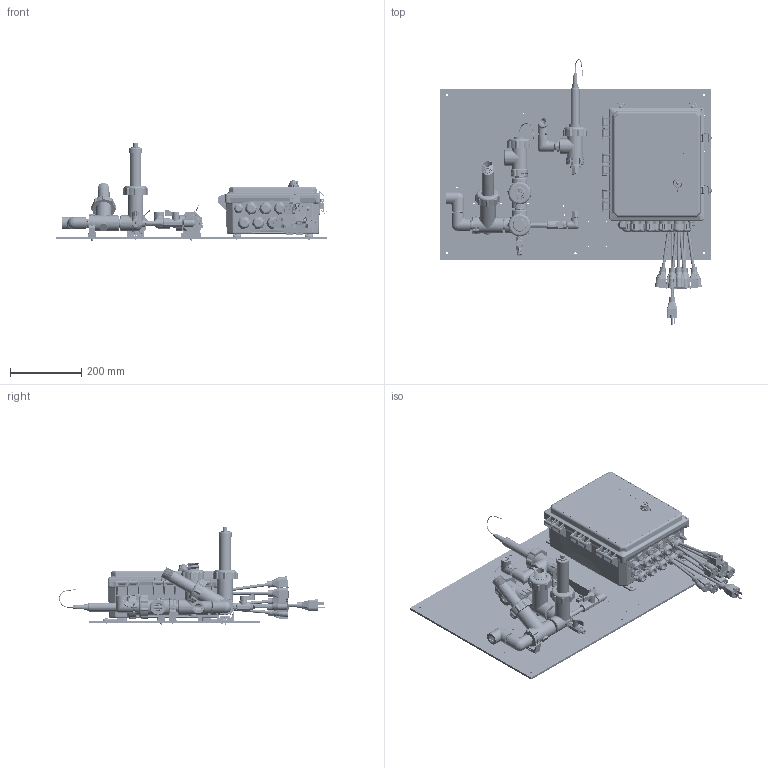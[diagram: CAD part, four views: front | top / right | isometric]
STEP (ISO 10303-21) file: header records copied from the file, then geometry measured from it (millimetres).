
FILE_DESCRIPTION (( 'STEP AP203' ), '1' );
FILE_NAME ('W900-CT-PAFKMN.STEP', '2021-06-01T19:11:59', ( '' ), ( '' ), 'SwSTEP 2.0', 'SolidWorks 2019', '' );
FILE_SCHEMA (( 'CONFIG_CONTROL_DESIGN' ));
Length unit declared in the file: inch
Products named in the file (65): W900 Shell; SHELL-103859_Cord1; SHELL-190996; SHELL-102880; 102907; SHELL-102961ws; SHELL-102961_30075T212; SHELL-103419-2; SHELL-103419-1; SHELL-191655-C; SHELL-103515; 102906; SHELL-102882; SHELL-191020-XX; SHELL-103442; 103861; SHELL-191445; 192606-PIN; W900-CT-PAFKMN Manifold; SHELL-104159; SHELL-102986; IMS0012; SHELL-102442_4880K347; IMS0025; SHELL-102423; SHELL-102381_4880K345; SHELL-102938; SHELL-102594; SHELL-191646-XX; SHELL-102879-XX_102879-01; SHELL-191652; SHELL-102784; W900-CT-PAFKMN; ISA0006; SHELL-102884; SHELL-104174_4882K41; IMS0013; SHELL-102883; SHELL-103893_91772A829; 103860_Cord1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
Assembly tree (111 placements, depth 5):
  W900-CT-PAFKMN
    SHELL-102938
    W900 Shell
      W900 Shell
      SHELL-103283-FT  x4
      IMS0035_91500A537  x4
      SHELL-103893_91772A829  x4
      ISA0006
        102903_102903
        102906
        103860_Cord1  x3
        103861
      ISA0006
        102903_102903
        102906
        103860_Cord1  x2
        103861
      ISA0006
        102907
        102903_102903
        102906
        103860_Cord1  x3
        103861
      SHELL-103859_Cord1
    SHELL-102961ws
      SHELL-102961_30075T212
      SHELL-103886_98273A320
    SHELL-102961ws
      SHELL-102961_30075T212
      SHELL-103886_98273A320
    SHELL-102961ws
      SHELL-102961_30075T212
      SHELL-103886_98273A320
    W900-CT-PAFKMN Manifold
      SHELL-102881  x2
      SHELL-100399_4882K13  x2
      SHELL-100795
      SHELL-102381_4880K345
      SHELL-102423  x2
      SHELL-102442_4880K347
      SHELL-102784  x2
      SHELL-102879-XX_102879-01
      SHELL-102884  x2
      SHELL-103425_4882K14  x5
      SHELL-103515
        IMS0013
        IMS0012
      SHELL-103686
        IMS0025
        IMS0012
      SHELL-104158
      SHELL-104159
      SHELL-104235
      SHELL-104174_4882K41
      SHELL-102586  x5
      SHELL-102594  x4
      SHELL-103963
      SHELL-191020-XX
        SHELL-102882
        SHELL-102919
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Bounding box: 764.69 x 748.07 x 273.2 mm (x, y, z)
Volume: 5842617.4 mm3; surface area: 2454827.6 mm2
Topology: 141 solids, 144 shells, 18473 faces, 48183 edges, 30123 vertices
Faces by surface type: plane 7168, cylinder 5537, bspline 3413, cone 1631, torus 598, sphere 126
Entity records: 813137 total; most frequent: CARTESIAN_POINT 478619, ORIENTED_EDGE 77720, DIRECTION 54816, EDGE_CURVE 38864, VERTEX_POINT 24484, AXIS2_PLACEMENT_3D 19004, LINE 16808, VECTOR 16808
